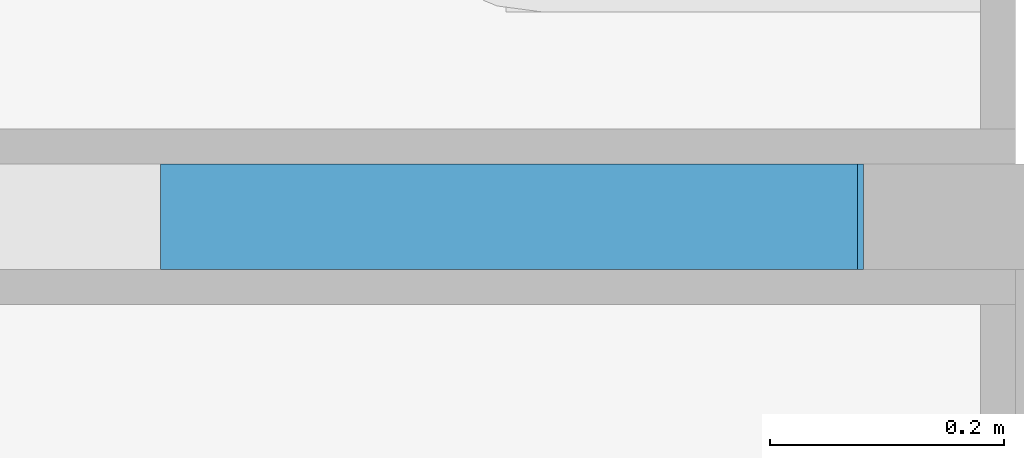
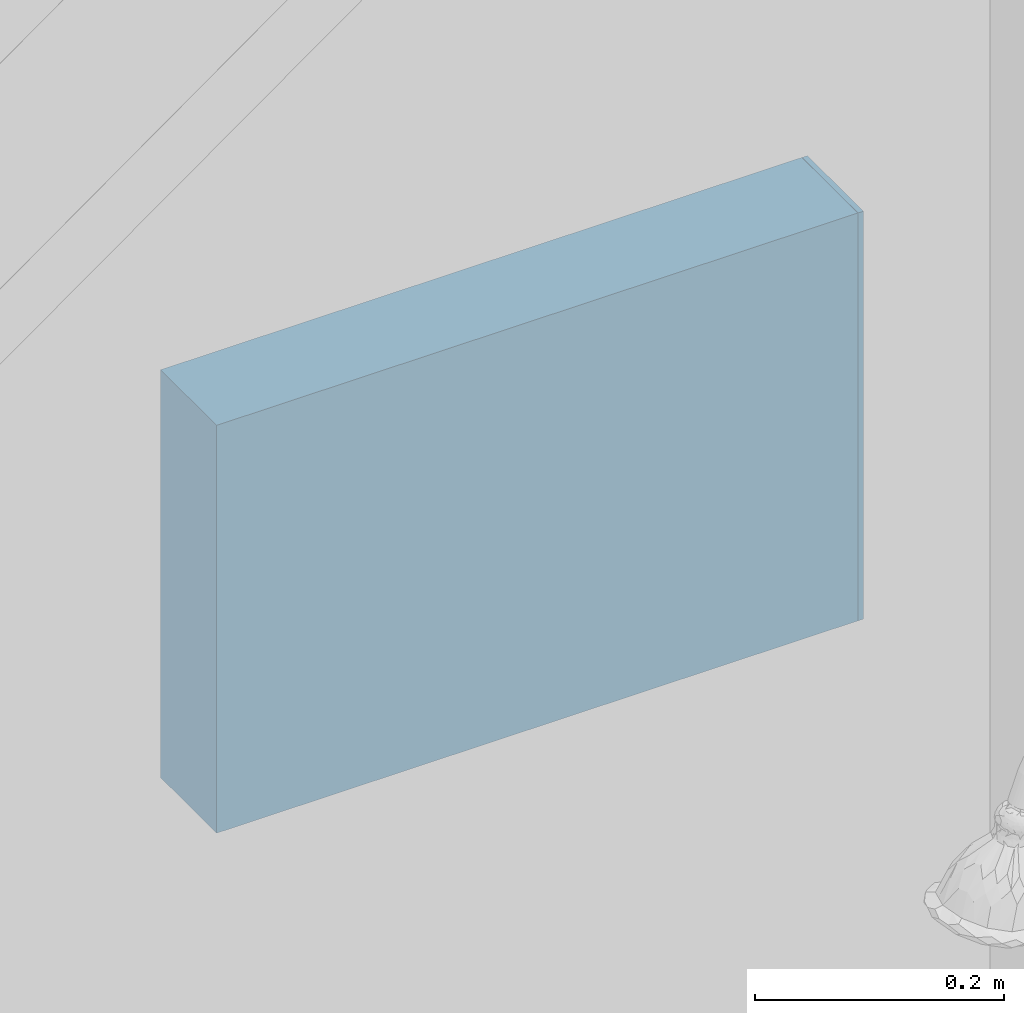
# One storey, part 46 of 155: 2 walls.
"""IFC2X3 building model written with IfcOpenShell, lengths in metres."""

from ifc_helpers import new_model, entity, si_unit, converted_unit, derived_unit, direction, frame, frame_2d, origin, place, context, subcontext, project, spatial, rectangle, extrude, material, layer, layer_set, layer_usage, type_object, element, save


model = new_model("IFC2X3")

# Units and contexts
model_context = context("Model", 3, precision=1e-05, world=origin(), true_north=direction((6.12303176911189e-17, 1.0)))
body_context = subcontext(model_context, "Body", "Model", "MODEL_VIEW")
ifc_project = project(units=[si_unit("LENGTHUNIT", "METRE"), si_unit("AREAUNIT", "SQUARE_METRE"), si_unit("VOLUMEUNIT", "CUBIC_METRE"), converted_unit("PLANEANGLEUNIT", "DEGREE", entity("IfcRatioMeasure", 0.0174532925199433), si_unit("PLANEANGLEUNIT", "RADIAN"), dimensions=[0, 0, 0, 0, 0, 0, 0]), si_unit("MASSUNIT", "GRAM", prefix="KILO"), derived_unit("MASSDENSITYUNIT", [(si_unit("MASSUNIT", "GRAM", prefix="KILO"), 1), (si_unit("LENGTHUNIT", "METRE"), -3)]), si_unit("TIMEUNIT", "SECOND"), si_unit("FREQUENCYUNIT", "HERTZ"), si_unit("THERMODYNAMICTEMPERATUREUNIT", "DEGREE_CELSIUS"), derived_unit("THERMALTRANSMITTANCEUNIT", [(si_unit("MASSUNIT", "GRAM", prefix="KILO"), 1), (si_unit("THERMODYNAMICTEMPERATUREUNIT", "KELVIN"), -1), (si_unit("TIMEUNIT", "SECOND"), -3)]), derived_unit("VOLUMETRICFLOWRATEUNIT", [(si_unit("LENGTHUNIT", "METRE"), 3), (si_unit("TIMEUNIT", "SECOND"), -1)]), si_unit("ELECTRICCURRENTUNIT", "AMPERE"), si_unit("ELECTRICVOLTAGEUNIT", "VOLT"), si_unit("POWERUNIT", "WATT"), si_unit("FORCEUNIT", "NEWTON", prefix="KILO"), si_unit("ILLUMINANCEUNIT", "LUX"), si_unit("LUMINOUSFLUXUNIT", "LUMEN"), si_unit("LUMINOUSINTENSITYUNIT", "CANDELA"), derived_unit("USERDEFINED", [(si_unit("MASSUNIT", "GRAM", prefix="KILO"), -1), (si_unit("LENGTHUNIT", "METRE"), -2), (si_unit("TIMEUNIT", "SECOND"), 3), (si_unit("LUMINOUSFLUXUNIT", "LUMEN"), 1)]), derived_unit("LINEARVELOCITYUNIT", [(si_unit("LENGTHUNIT", "METRE"), 1), (si_unit("TIMEUNIT", "SECOND"), -1)]), si_unit("PRESSUREUNIT", "PASCAL"), derived_unit("USERDEFINED", [(si_unit("LENGTHUNIT", "METRE"), -2), (si_unit("MASSUNIT", "GRAM", prefix="KILO"), 1), (si_unit("TIMEUNIT", "SECOND"), -2)])], contexts=[model_context])

# Site, building, storey
site_placement = place(None, frame((26.9889013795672, -17.5624287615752, 0.0)))
site = spatial("IfcSite", under=ifc_project, at=site_placement, Name="Default", CompositionType="ELEMENT")
building_placement = place(site_placement, origin())
building = spatial("IfcBuilding", under=site, at=building_placement, Name="C. C. L. Monsenhor Antônio Sampaio", CompositionType="ELEMENT")
storey_placement = place(building_placement, frame((0.0, 0.0, 1.19999999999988)))
storey = spatial("IfcBuildingStorey", under=building, at=storey_placement, Name="Nível 1.2", CompositionType="ELEMENT", Elevation=1.19999999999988)

# Walls
ifc_material = material(Name="ALVENARIA")
ifc_layer = layer(ifc_material, 0.09)
ifc_layer_set = layer_set([ifc_layer], Name="Parede básica:ENucleo parede 15cm")
ifc_layer_usage_1 = layer_usage(ifc_layer_set, "AXIS2", "POSITIVE", -0.045)
wall_type = type_object("IfcWallType", Name="Parede básica:ENucleo parede 15cm", PredefinedType="STANDARD", material=ifc_layer_set)
wall_1_placement = place(storey_placement, frame((3.62444770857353, -28.378066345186, 1.8)))
element("IfcWallStandardCase", 1, at=wall_1_placement, inside=storey, type_object=wall_type, material=ifc_layer_usage_1, Name="Parede básica:ENucleo parede 15cm", ObjectType="Parede básica:ENucleo parede 15cm", context=body_context, shape_type="SweptSolid", body=[
    extrude(rectangle(XDim=0.00499999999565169, YDim=0.0900000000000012, at=frame_2d((5.41450564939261e-16, -2.16840434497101e-15), x_axis=(1.0, 0.0))), frame((0.00249999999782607, 0.0, 0.0), z_axis=(0.0, 0.0, 1.0), x_axis=(-1.0, 0.0, 0.0)), (0.0, 0.0, 1.0), 0.400000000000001),
])
ifc_layer_usage_2 = layer_usage(ifc_layer_set, "AXIS2", "POSITIVE", -0.045)
wall_2_placement = place(storey_placement, frame((3.02944770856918, -28.378066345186, 1.8)))
element("IfcWallStandardCase", 2, at=wall_2_placement, inside=storey, type_object=wall_type, material=ifc_layer_usage_2, Name="Parede básica:ENucleo parede 15cm", ObjectType="Parede básica:ENucleo parede 15cm", context=body_context, shape_type="SweptSolid", body=[
    extrude(rectangle(XDim=0.595000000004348, YDim=0.0899999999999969, at=frame_2d((0.297500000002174, 9.74914593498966e-16), x_axis=(-1.0, 0.0))), origin(), (0.0, 0.0, 1.0), 0.400000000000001),
])

save(model, "model.ifc")
